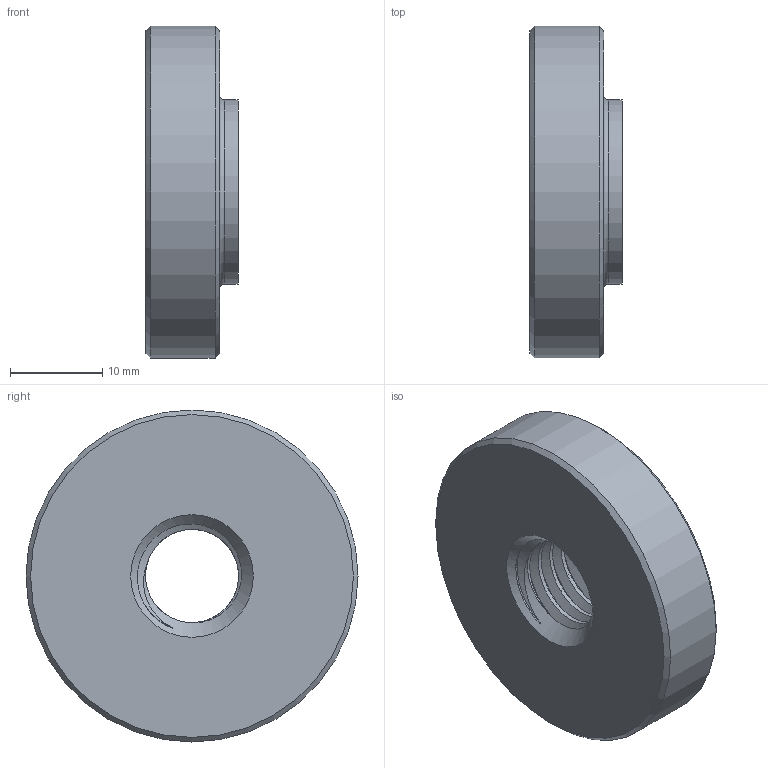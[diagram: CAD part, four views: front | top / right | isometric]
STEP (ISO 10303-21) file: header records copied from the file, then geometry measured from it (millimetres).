
FILE_DESCRIPTION(('STEP AP203'), '1');
FILE_NAME('À00083.112', '2025-03-17T10:22:14', ('1'), (''), 'C3D Converter', 'C3D Toolkit', '');
FILE_SCHEMA(('CONFIG_CONTROL_DESIGN'));
Length unit declared in the file: millimetre
Products named in the file (1): А00083.112
Bounding box: 10 x 36 x 36 mm (x, y, z)
Volume: 7746.6 mm3; surface area: 3275.8 mm2
Topology: 1 solids, 1 shells, 18 faces, 43 edges, 31 vertices
Faces by surface type: cylinder 6, cone 5, bspline 3, plane 3, torus 1
Full cylindrical faces by diameter (mm): 20 x1, 36 x1
Entity records: 4834 total; most frequent: CARTESIAN_POINT 4323, ORIENTED_EDGE 64, DIRECTION 55, EDGE_CURVE 32, EDGE_LOOP 27, AXIS2_PLACEMENT_3D 26, VERTEX_POINT 25, COLOUR_RGB 19
